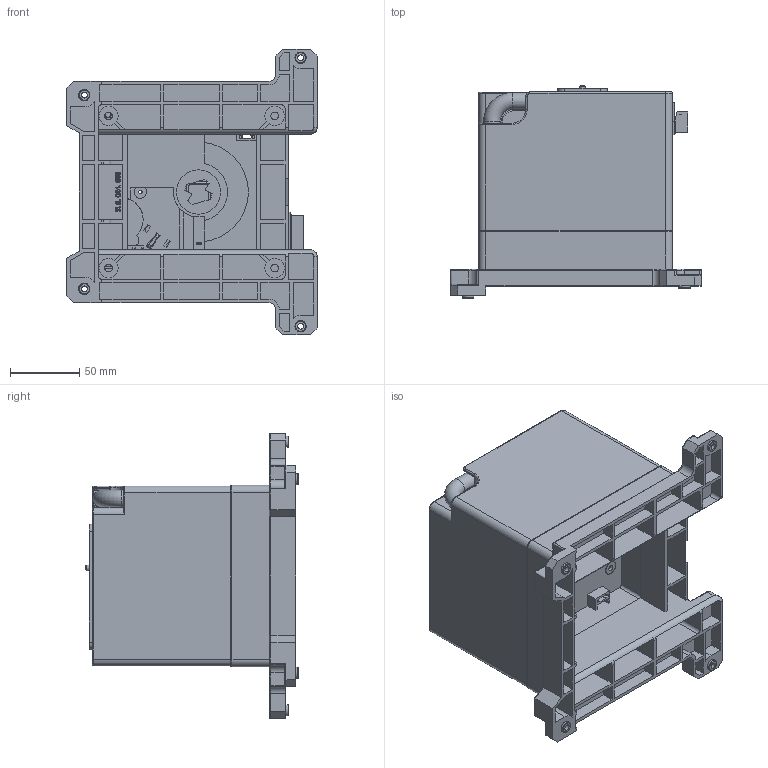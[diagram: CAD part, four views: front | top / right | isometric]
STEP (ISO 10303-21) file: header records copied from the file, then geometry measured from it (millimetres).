
FILE_DESCRIPTION(/* description */ (''),/* implementation_level */ '2;1');
FILE_NAME(/* name */ 'MOT80GP_3D DATA.stp',/* time_stamp */ '2017-12-26T17:31:22+09:00',/* author */ (''),/* organization */ (''),/* preprocessor_version */ 'ST-DEVELOPER v15',/* originating_system */ 'SIEMENS PLM Software NX 9.0',/* authorisation */ '');
FILE_SCHEMA (('AP203_CONFIGURATION_CONTROLLED_3D_DESIGN_OF_MECHANICAL_PARTS_AND_ASSEMBLIES_MIM_LF { 1 0 10303 403 2 1 2}'));
Products named in the file (9): 400GM__WL8.024.239.2_id221_x_t; CD4B-80GP_id216_x_t; WL8.261.44B-POM_id211_x_t; ____ _______id206_x_t; 6__________5.08_id201_x_t; 310____.WL8.024.238.2_id196_x_t; 800GP____WL8.024.668_id11_x_t; 6__________5.08_id6_x_t; CD4B-80GP_x_t
Assembly tree (8 placements, depth 2):
  CD4B-80GP_x_t
    6__________5.08_id6_x_t
    800GP____WL8.024.668_id11_x_t
    310____.WL8.024.238.2_id196_x_t
    6__________5.08_id201_x_t
    ____ _______id206_x_t
    WL8.261.44B-POM_id211_x_t
    CD4B-80GP_id216_x_t
    400GM__WL8.024.239.2_id221_x_t
Bounding box: 181 x 153.8 x 206.5 mm (x, y, z)
Volume: 494274 mm3; surface area: 375304.4 mm2
Topology: 8 solids, 8 shells, 1993 faces, 5435 edges, 3545 vertices
Faces by surface type: plane 1450, cylinder 320, extrusion 153, torus 26, cone 20, bspline 13, sphere 11
Full cylindrical faces by diameter (mm): 1.9 x2, 2.2 x2, 2.4 x2, 2.8 x6, 3.3 x1, 3.5 x1, 3.7 x6, 4 x1, 4.2 x8, 5 x1, 5.5 x4, 7 x3, 8 x6, 8.2 x4, 9 x3, 10 x5, 12 x2, 32 x1, 36 x1
Entity records: 69846 total; most frequent: CARTESIAN_POINT 18924, ORIENTED_EDGE 10644, DIRECTION 9547, EDGE_CURVE 5322, VECTOR 4373, LINE 4220, VERTEX_POINT 3519, AXIS2_PLACEMENT_3D 2587
